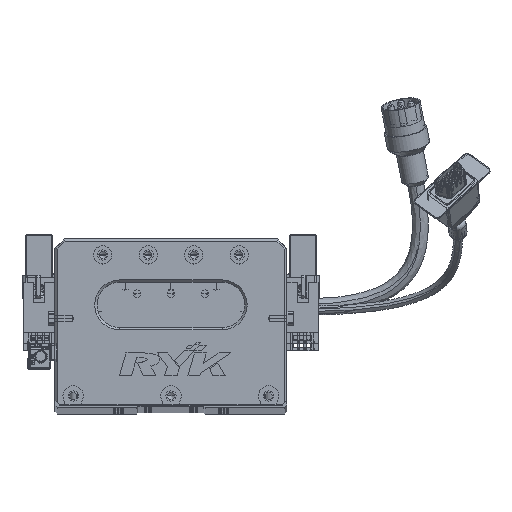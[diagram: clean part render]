
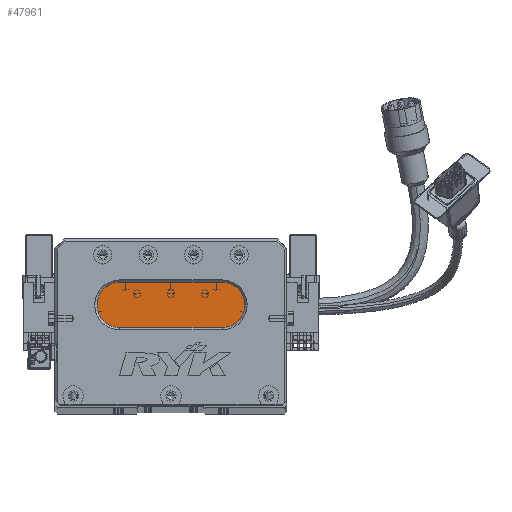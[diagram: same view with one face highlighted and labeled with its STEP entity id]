
A CAD part, top view. The second image highlights one B-rep face of the part: STEP entity #47961.
In plain terms, the highlighted planar face has unit normal (0, 0, 1) as drawn and (0, 0, -1) by its records, which use the part's own axes.
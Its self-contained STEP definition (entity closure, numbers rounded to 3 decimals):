
#1581 = DIRECTION ( 'NONE',  ( -1., 0., 0. ) ) ;
#3158 = EDGE_CURVE ( 'NONE', #12471, #14322, #50425, .T. ) ;
#3183 = ORIENTED_EDGE ( 'NONE', *, *, #26059, .T. ) ;
#5323 = AXIS2_PLACEMENT_3D ( 'NONE', #52784, #29736, #63937 ) ;
#7016 = VERTEX_POINT ( 'NONE', #35494 ) ;
#11221 = LINE ( 'NONE', #32594, #23962 ) ;
#12193 = EDGE_CURVE ( 'NONE', #35145, #7016, #11221, .T. ) ;
#12359 = AXIS2_PLACEMENT_3D ( 'NONE', #48463, #30743, #31482 ) ;
#12471 = VERTEX_POINT ( 'NONE', #24668 ) ;
#12721 = EDGE_LOOP ( 'NONE', ( #3183, #62875, #66154, #14276, #33513 ) ) ;
#14276 = ORIENTED_EDGE ( 'NONE', *, *, #20749, .T. ) ;
#14322 = VERTEX_POINT ( 'NONE', #46310 ) ;
#20749 = EDGE_CURVE ( 'NONE', #14322, #35145, #47078, .T. ) ;
#22975 = VERTEX_POINT ( 'NONE', #68830 ) ;
#23962 = VECTOR ( 'NONE', #66798, 1000. ) ;
#24668 = CARTESIAN_POINT ( 'NONE',  ( 28.5, 34., 13. ) ) ;
#26059 = EDGE_CURVE ( 'NONE', #7016, #22975, #33646, .T. ) ;
#29736 = DIRECTION ( 'NONE',  ( 0., 0., -1. ) ) ;
#30228 = CARTESIAN_POINT ( 'NONE',  ( 73.5, 34., 13. ) ) ;
#30743 = DIRECTION ( 'NONE',  ( 0., 0., -1. ) ) ;
#31482 = DIRECTION ( 'NONE',  ( -1., 0., 0. ) ) ;
#32594 = CARTESIAN_POINT ( 'NONE',  ( 73.5, 54., 13. ) ) ;
#33513 = ORIENTED_EDGE ( 'NONE', *, *, #12193, .T. ) ;
#33646 = CIRCLE ( 'NONE', #5323, 10. ) ;
#34280 = FACE_OUTER_BOUND ( 'NONE', #12721, .T. ) ;
#35145 = VERTEX_POINT ( 'NONE', #60502 ) ;
#35494 = CARTESIAN_POINT ( 'NONE',  ( 73.5, 54., 13. ) ) ;
#36338 = DIRECTION ( 'NONE',  ( 0., 0., -1. ) ) ;
#37321 = CARTESIAN_POINT ( 'NONE',  ( 28.5, 44., 13. ) ) ;
#39349 = DIRECTION ( 'NONE',  ( -1., 0., 0. ) ) ;
#39976 = AXIS2_PLACEMENT_3D ( 'NONE', #56582, #74066, #39349 ) ;
#45310 = LINE ( 'NONE', #30228, #69790 ) ;
#46310 = CARTESIAN_POINT ( 'NONE',  ( 18.5, 44., 13. ) ) ;
#47078 = CIRCLE ( 'NONE', #39976, 10. ) ;
#47961 = ADVANCED_FACE ( 'NONE', ( #34280 ), #54572, .T. ) ;
#48463 = CARTESIAN_POINT ( 'NONE',  ( 73.5, 44., 13. ) ) ;
#50425 = CIRCLE ( 'NONE', #70341, 10. ) ;
#52784 = CARTESIAN_POINT ( 'NONE',  ( 73.5, 44., 13. ) ) ;
#53271 = DIRECTION ( 'NONE',  ( -1., 0., 0. ) ) ;
#54572 = PLANE ( 'NONE',  #12359 ) ;
#56582 = CARTESIAN_POINT ( 'NONE',  ( 28.5, 44., 13. ) ) ;
#60502 = CARTESIAN_POINT ( 'NONE',  ( 28.5, 54., 13. ) ) ;
#62875 = ORIENTED_EDGE ( 'NONE', *, *, #62920, .T. ) ;
#62920 = EDGE_CURVE ( 'NONE', #22975, #12471, #45310, .T. ) ;
#63937 = DIRECTION ( 'NONE',  ( -1., 0., 0. ) ) ;
#66154 = ORIENTED_EDGE ( 'NONE', *, *, #3158, .T. ) ;
#66798 = DIRECTION ( 'NONE',  ( 1., 0., 0. ) ) ;
#68830 = CARTESIAN_POINT ( 'NONE',  ( 73.5, 34., 13. ) ) ;
#69790 = VECTOR ( 'NONE', #53271, 1000. ) ;
#70341 = AXIS2_PLACEMENT_3D ( 'NONE', #37321, #36338, #1581 ) ;
#74066 = DIRECTION ( 'NONE',  ( 0., 0., -1. ) ) ;
